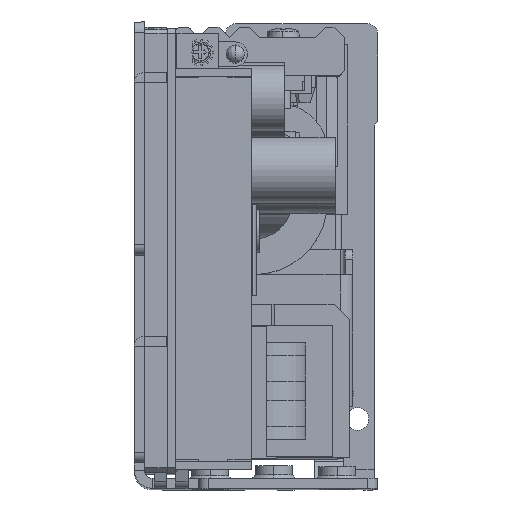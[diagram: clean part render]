
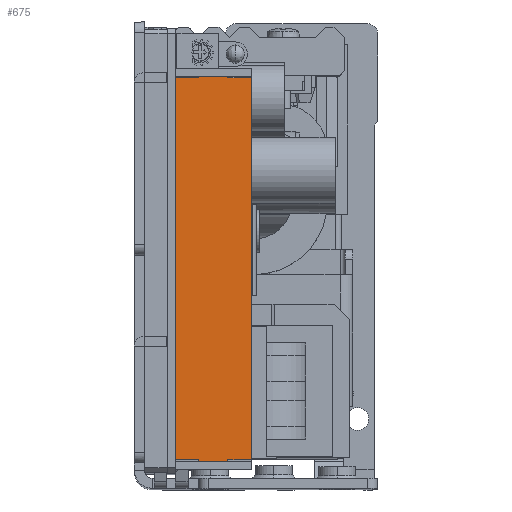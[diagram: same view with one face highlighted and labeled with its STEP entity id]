
A CAD part, top view. The second image highlights one B-rep face of the part: STEP entity #675.
In plain terms, the highlighted planar face has unit normal (0, 0, 1).
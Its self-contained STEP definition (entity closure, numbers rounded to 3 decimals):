
#581 = EDGE_CURVE ( 'NONE', #717, #737, #141837, .T. ) ;
#585 = VERTEX_POINT ( 'NONE', #141826 ) ;
#601 = VERTEX_POINT ( 'NONE', #141884 ) ;
#629 = EDGE_CURVE ( 'NONE', #3393, #756, #141933, .T. ) ;
#632 = EDGE_CURVE ( 'NONE', #737, #601, #141928, .T. ) ;
#635 = VERTEX_POINT ( 'NONE', #141923 ) ;
#660 = EDGE_CURVE ( 'NONE', #756, #635, #142039, .T. ) ;
#675 = ADVANCED_FACE ( 'NONE', ( #142033 ), #142114, .T. ) ;
#677 = ORIENTED_EDGE ( 'NONE', *, *, #629, .T. ) ;
#680 = ORIENTED_EDGE ( 'NONE', *, *, #3370, .T. ) ;
#685 = EDGE_CURVE ( 'NONE', #601, #3371, #142102, .T. ) ;
#717 = VERTEX_POINT ( 'NONE', #142127 ) ;
#722 = EDGE_CURVE ( 'NONE', #758, #717, #140511, .T. ) ;
#737 = VERTEX_POINT ( 'NONE', #142456 ) ;
#756 = VERTEX_POINT ( 'NONE', #142487 ) ;
#758 = VERTEX_POINT ( 'NONE', #142486 ) ;
#763 = EDGE_CURVE ( 'NONE', #585, #758, #142481, .T. ) ;
#765 = EDGE_CURVE ( 'NONE', #635, #585, #142585, .T. ) ;
#780 = ORIENTED_EDGE ( 'NONE', *, *, #3378, .T. ) ;
#781 = ORIENTED_EDGE ( 'NONE', *, *, #765, .T. ) ;
#782 = ORIENTED_EDGE ( 'NONE', *, *, #763, .T. ) ;
#786 = ORIENTED_EDGE ( 'NONE', *, *, #722, .T. ) ;
#789 = EDGE_LOOP ( 'NONE', ( #812, #951, #680, #998, #780, #819, #677, #997, #781, #782, #786, #953 ) ) ;
#812 = ORIENTED_EDGE ( 'NONE', *, *, #632, .T. ) ;
#819 = ORIENTED_EDGE ( 'NONE', *, *, #3395, .T. ) ;
#951 = ORIENTED_EDGE ( 'NONE', *, *, #685, .T. ) ;
#953 = ORIENTED_EDGE ( 'NONE', *, *, #581, .T. ) ;
#997 = ORIENTED_EDGE ( 'NONE', *, *, #660, .T. ) ;
#998 = ORIENTED_EDGE ( 'NONE', *, *, #3422, .T. ) ;
#3368 = VERTEX_POINT ( 'NONE', #29626 ) ;
#3370 = EDGE_CURVE ( 'NONE', #3371, #3368, #29622, .T. ) ;
#3371 = VERTEX_POINT ( 'NONE', #29618 ) ;
#3376 = VERTEX_POINT ( 'NONE', #29680 ) ;
#3378 = EDGE_CURVE ( 'NONE', #3417, #3376, #29678, .T. ) ;
#3393 = VERTEX_POINT ( 'NONE', #29793 ) ;
#3395 = EDGE_CURVE ( 'NONE', #3376, #3393, #29789, .T. ) ;
#3417 = VERTEX_POINT ( 'NONE', #29932 ) ;
#3422 = EDGE_CURVE ( 'NONE', #3368, #3417, #30008, .T. ) ;
#29618 = CARTESIAN_POINT ( 'NONE',  ( 18.45, 80.95, 221.5 ) ) ;
#29619 = DIRECTION ( 'NONE',  ( 0., 1., 0. ) ) ;
#29620 = VECTOR ( 'NONE', #29619, 1000. ) ;
#29621 = CARTESIAN_POINT ( 'NONE',  ( 18.45, 82.75, 221.5 ) ) ;
#29622 = LINE ( 'NONE', #29621, #29620 ) ;
#29626 = CARTESIAN_POINT ( 'NONE',  ( 18.45, 82.75, 221.5 ) ) ;
#29675 = DIRECTION ( 'NONE',  ( 0., -1., 0. ) ) ;
#29676 = VECTOR ( 'NONE', #29675, 1000. ) ;
#29677 = CARTESIAN_POINT ( 'NONE',  ( 12.75, 82.75, 221.5 ) ) ;
#29678 = LINE ( 'NONE', #29677, #29676 ) ;
#29680 = CARTESIAN_POINT ( 'NONE',  ( 12.75, 80.95, 221.5 ) ) ;
#29786 = DIRECTION ( 'NONE',  ( -1., 0., 0. ) ) ;
#29787 = VECTOR ( 'NONE', #29786, 1000. ) ;
#29788 = CARTESIAN_POINT ( 'NONE',  ( 18.45, 80.95, 221.5 ) ) ;
#29789 = LINE ( 'NONE', #29788, #29787 ) ;
#29793 = CARTESIAN_POINT ( 'NONE',  ( 8.1, 80.95, 221.5 ) ) ;
#29932 = CARTESIAN_POINT ( 'NONE',  ( 12.75, 82.75, 221.5 ) ) ;
#30002 = DIRECTION ( 'NONE',  ( -1., 0., 0. ) ) ;
#30004 = VECTOR ( 'NONE', #30002, 1000. ) ;
#30006 = CARTESIAN_POINT ( 'NONE',  ( 18.45, 82.75, 221.5 ) ) ;
#30008 = LINE ( 'NONE', #30006, #30004 ) ;
#140494 = DIRECTION ( 'NONE',  ( 0., 1., 0. ) ) ;
#140495 = VECTOR ( 'NONE', #140494, 1000. ) ;
#140497 = CARTESIAN_POINT ( 'NONE',  ( 18.45, 82.75, 221.5 ) ) ;
#140511 = LINE ( 'NONE', #140497, #140495 ) ;
#141826 = CARTESIAN_POINT ( 'NONE',  ( 12.75, 3.75, 221.5 ) ) ;
#141829 = DIRECTION ( 'NONE',  ( 1., 0., 0. ) ) ;
#141831 = VECTOR ( 'NONE', #141829, 1000. ) ;
#141834 = CARTESIAN_POINT ( 'NONE',  ( 18.45, 5.55, 221.5 ) ) ;
#141837 = LINE ( 'NONE', #141834, #141831 ) ;
#141884 = CARTESIAN_POINT ( 'NONE',  ( 23.1, 80.95, 221.5 ) ) ;
#141923 = CARTESIAN_POINT ( 'NONE',  ( 12.75, 5.55, 221.5 ) ) ;
#141924 = DIRECTION ( 'NONE',  ( 0., 1., 0. ) ) ;
#141925 = VECTOR ( 'NONE', #141924, 1000. ) ;
#141927 = CARTESIAN_POINT ( 'NONE',  ( 23.1, 82.75, 221.5 ) ) ;
#141928 = LINE ( 'NONE', #141927, #141925 ) ;
#141930 = DIRECTION ( 'NONE',  ( 0., -1., 0. ) ) ;
#141931 = VECTOR ( 'NONE', #141930, 1000. ) ;
#141932 = CARTESIAN_POINT ( 'NONE',  ( 8.1, 82.75, 221.5 ) ) ;
#141933 = LINE ( 'NONE', #141932, #141931 ) ;
#142033 = FACE_OUTER_BOUND ( 'NONE', #789, .T. ) ;
#142035 = DIRECTION ( 'NONE',  ( 1., 0., 0. ) ) ;
#142036 = VECTOR ( 'NONE', #142035, 1000. ) ;
#142037 = CARTESIAN_POINT ( 'NONE',  ( 18.45, 5.55, 221.5 ) ) ;
#142039 = LINE ( 'NONE', #142037, #142036 ) ;
#142098 = DIRECTION ( 'NONE',  ( -1., 0., 0. ) ) ;
#142099 = VECTOR ( 'NONE', #142098, 1000. ) ;
#142100 = CARTESIAN_POINT ( 'NONE',  ( 18.45, 80.95, 221.5 ) ) ;
#142102 = LINE ( 'NONE', #142100, #142099 ) ;
#142104 = DIRECTION ( 'NONE',  ( 0., -1., 0. ) ) ;
#142106 = DIRECTION ( 'NONE',  ( 0., 0., 1. ) ) ;
#142107 = CARTESIAN_POINT ( 'NONE',  ( 18.45, 82.75, 221.5 ) ) ;
#142108 = AXIS2_PLACEMENT_3D ( 'NONE', #142107, #142106, #142104 ) ;
#142114 = PLANE ( 'NONE',  #142108 ) ;
#142127 = CARTESIAN_POINT ( 'NONE',  ( 18.45, 5.55, 221.5 ) ) ;
#142456 = CARTESIAN_POINT ( 'NONE',  ( 23.1, 5.55, 221.5 ) ) ;
#142476 = DIRECTION ( 'NONE',  ( 1., 0., 0. ) ) ;
#142478 = VECTOR ( 'NONE', #142476, 1000. ) ;
#142479 = CARTESIAN_POINT ( 'NONE',  ( 18.45, 3.75, 221.5 ) ) ;
#142481 = LINE ( 'NONE', #142479, #142478 ) ;
#142486 = CARTESIAN_POINT ( 'NONE',  ( 18.45, 3.75, 221.5 ) ) ;
#142487 = CARTESIAN_POINT ( 'NONE',  ( 8.1, 5.55, 221.5 ) ) ;
#142579 = DIRECTION ( 'NONE',  ( 0., -1., 0. ) ) ;
#142581 = VECTOR ( 'NONE', #142579, 1000. ) ;
#142583 = CARTESIAN_POINT ( 'NONE',  ( 12.75, 82.75, 221.5 ) ) ;
#142585 = LINE ( 'NONE', #142583, #142581 ) ;
